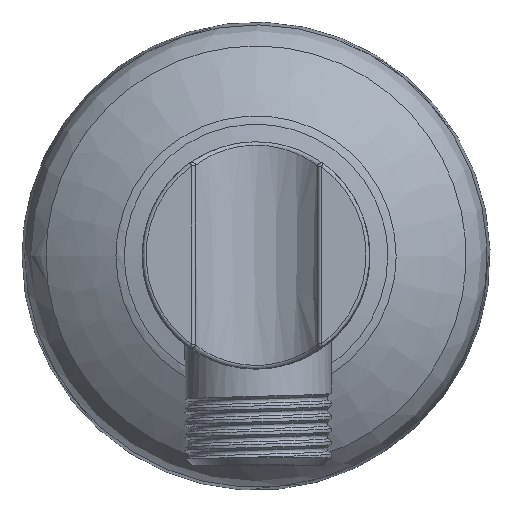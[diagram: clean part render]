
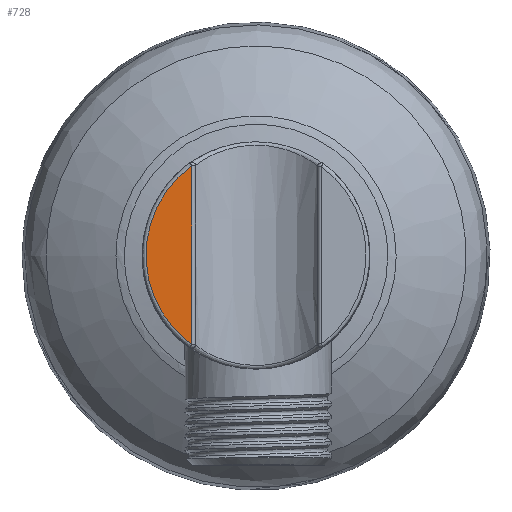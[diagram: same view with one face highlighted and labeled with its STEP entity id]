
A CAD part, top view. The second image highlights one B-rep face of the part: STEP entity #728.
In plain terms, the highlighted planar face has unit normal (0, 0, 1).
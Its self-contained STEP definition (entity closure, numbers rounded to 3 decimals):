
#25=PLANE('',#795);
#47=LINE('',#4451,#70);
#70=VECTOR('',#848,10.);
#127=FACE_OUTER_BOUND('',#182,.T.);
#182=EDGE_LOOP('',(#536,#537));
#252=B_SPLINE_CURVE_WITH_KNOTS('',3,(#4452,#4453,#4454,#4455,#4456,#4457,
#4458,#4459,#4460,#4461,#4462,#4463,#4464,#4465,#4466,#4467,#4468,#4469,
#4470,#4471,#4472,#4473,#4474,#4475,#4476),.UNSPECIFIED.,.F.,.F.,(4,3,3,
3,3,3,3,3,4),(0.,0.125,0.25,0.375,0.5,0.625,
0.75,0.875,1.),.UNSPECIFIED.);
#333=VERTEX_POINT('',#4449);
#334=VERTEX_POINT('',#4450);
#409=EDGE_CURVE('',#333,#334,#47,.T.);
#410=EDGE_CURVE('',#334,#333,#252,.T.);
#536=ORIENTED_EDGE('',*,*,#409,.T.);
#537=ORIENTED_EDGE('',*,*,#410,.T.);
#728=ADVANCED_FACE('',(#127),#25,.T.);
#795=AXIS2_PLACEMENT_3D('',#4448,#846,#847);
#846=DIRECTION('center_axis',(0.,0.,1.));
#847=DIRECTION('ref_axis',(0.,1.,0.));
#848=DIRECTION('',(0.,1.,0.));
#4448=CARTESIAN_POINT('Origin',(-8.377,-1.081,43.714));
#4449=CARTESIAN_POINT('',(-8.377,-13.678,43.714));
#4450=CARTESIAN_POINT('',(-8.377,11.517,43.714));
#4451=CARTESIAN_POINT('',(-8.377,-13.678,43.714));
#4452=CARTESIAN_POINT('Ctrl Pts',(-8.377,11.517,43.714));
#4453=CARTESIAN_POINT('Ctrl Pts',(-9.372,10.803,43.714));
#4454=CARTESIAN_POINT('Ctrl Pts',(-10.283,9.97,43.714));
#4455=CARTESIAN_POINT('Ctrl Pts',(-11.083,9.042,43.714));
#4456=CARTESIAN_POINT('Ctrl Pts',(-11.883,8.113,43.714));
#4457=CARTESIAN_POINT('Ctrl Pts',(-12.573,7.09,43.714));
#4458=CARTESIAN_POINT('Ctrl Pts',(-13.133,6.,43.714));
#4459=CARTESIAN_POINT('Ctrl Pts',(-13.692,4.909,43.714));
#4460=CARTESIAN_POINT('Ctrl Pts',(-14.122,3.753,43.714));
#4461=CARTESIAN_POINT('Ctrl Pts',(-14.41,2.561,43.714));
#4462=CARTESIAN_POINT('Ctrl Pts',(-14.698,1.37,43.714));
#4463=CARTESIAN_POINT('Ctrl Pts',(-14.844,0.145,43.714));
#4464=CARTESIAN_POINT('Ctrl Pts',(-14.844,-1.081,43.714));
#4465=CARTESIAN_POINT('Ctrl Pts',(-14.844,-2.306,43.714));
#4466=CARTESIAN_POINT('Ctrl Pts',(-14.698,-3.532,43.714));
#4467=CARTESIAN_POINT('Ctrl Pts',(-14.41,-4.723,43.714));
#4468=CARTESIAN_POINT('Ctrl Pts',(-14.122,-5.914,43.714));
#4469=CARTESIAN_POINT('Ctrl Pts',(-13.692,-7.071,43.714));
#4470=CARTESIAN_POINT('Ctrl Pts',(-13.133,-8.161,43.714));
#4471=CARTESIAN_POINT('Ctrl Pts',(-12.573,-9.251,43.714));
#4472=CARTESIAN_POINT('Ctrl Pts',(-11.883,-10.275,43.714));
#4473=CARTESIAN_POINT('Ctrl Pts',(-11.083,-11.203,43.714));
#4474=CARTESIAN_POINT('Ctrl Pts',(-10.283,-12.131,43.714));
#4475=CARTESIAN_POINT('Ctrl Pts',(-9.372,-12.964,43.714));
#4476=CARTESIAN_POINT('Ctrl Pts',(-8.377,-13.678,43.714));
